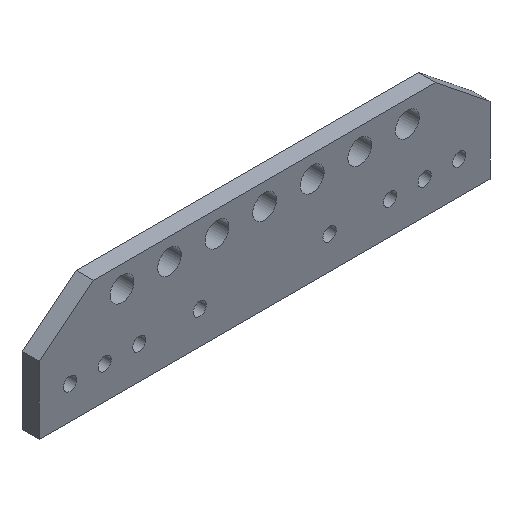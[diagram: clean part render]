
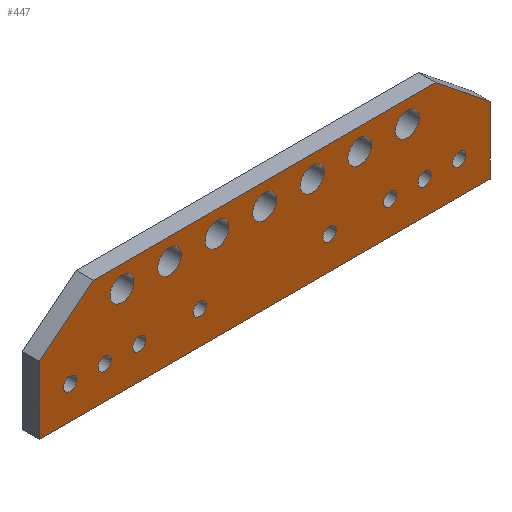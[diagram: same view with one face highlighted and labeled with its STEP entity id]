
A CAD part, isometric view. The second image highlights one B-rep face of the part: STEP entity #447.
In plain terms, the highlighted planar face has unit normal (0, -1, 0).
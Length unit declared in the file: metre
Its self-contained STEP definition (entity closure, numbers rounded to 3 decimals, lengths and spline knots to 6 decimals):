
#15=CIRCLE('',#478,0.00275);
#17=CIRCLE('',#481,0.00275);
#19=CIRCLE('',#484,0.00275);
#21=CIRCLE('',#487,0.00275);
#23=CIRCLE('',#490,0.00275);
#25=CIRCLE('',#493,0.001524);
#27=CIRCLE('',#496,0.001524);
#29=CIRCLE('',#499,0.001524);
#31=CIRCLE('',#502,0.001524);
#33=CIRCLE('',#505,0.001524);
#35=CIRCLE('',#508,0.001524);
#37=CIRCLE('',#511,0.001524);
#39=CIRCLE('',#514,0.001524);
#41=CIRCLE('',#518,0.00275);
#43=CIRCLE('',#521,0.00275);
#134=ORIENTED_EDGE('',*,*,#200,.F.);
#135=ORIENTED_EDGE('',*,*,#155,.T.);
#136=ORIENTED_EDGE('',*,*,#197,.F.);
#137=ORIENTED_EDGE('',*,*,#168,.F.);
#138=ORIENTED_EDGE('',*,*,#165,.F.);
#139=ORIENTED_EDGE('',*,*,#162,.T.);
#140=ORIENTED_EDGE('',*,*,#159,.T.);
#141=ORIENTED_EDGE('',*,*,#196,.T.);
#142=ORIENTED_EDGE('',*,*,#194,.T.);
#143=ORIENTED_EDGE('',*,*,#192,.T.);
#144=ORIENTED_EDGE('',*,*,#190,.T.);
#145=ORIENTED_EDGE('',*,*,#188,.T.);
#146=ORIENTED_EDGE('',*,*,#186,.T.);
#147=ORIENTED_EDGE('',*,*,#184,.T.);
#148=ORIENTED_EDGE('',*,*,#182,.T.);
#149=ORIENTED_EDGE('',*,*,#180,.T.);
#150=ORIENTED_EDGE('',*,*,#178,.T.);
#151=ORIENTED_EDGE('',*,*,#176,.T.);
#152=ORIENTED_EDGE('',*,*,#174,.T.);
#153=ORIENTED_EDGE('',*,*,#172,.F.);
#154=ORIENTED_EDGE('',*,*,#202,.F.);
#155=EDGE_CURVE('',#203,#204,#245,.T.);
#159=EDGE_CURVE('',#207,#203,#249,.T.);
#162=EDGE_CURVE('',#209,#207,#252,.T.);
#165=EDGE_CURVE('',#209,#211,#255,.T.);
#168=EDGE_CURVE('',#211,#213,#258,.T.);
#172=EDGE_CURVE('',#216,#216,#15,.F.);
#174=EDGE_CURVE('',#218,#218,#17,.T.);
#176=EDGE_CURVE('',#220,#220,#19,.T.);
#178=EDGE_CURVE('',#222,#222,#21,.T.);
#180=EDGE_CURVE('',#224,#224,#23,.T.);
#182=EDGE_CURVE('',#226,#226,#25,.T.);
#184=EDGE_CURVE('',#228,#228,#27,.T.);
#186=EDGE_CURVE('',#230,#230,#29,.T.);
#188=EDGE_CURVE('',#232,#232,#31,.T.);
#190=EDGE_CURVE('',#234,#234,#33,.T.);
#192=EDGE_CURVE('',#236,#236,#35,.T.);
#194=EDGE_CURVE('',#238,#238,#37,.T.);
#196=EDGE_CURVE('',#240,#240,#39,.T.);
#197=EDGE_CURVE('',#213,#204,#261,.T.);
#200=EDGE_CURVE('',#242,#242,#41,.F.);
#202=EDGE_CURVE('',#244,#244,#43,.F.);
#203=VERTEX_POINT('',#653);
#204=VERTEX_POINT('',#654);
#207=VERTEX_POINT('',#662);
#209=VERTEX_POINT('',#668);
#211=VERTEX_POINT('',#674);
#213=VERTEX_POINT('',#680);
#216=VERTEX_POINT('',#688);
#218=VERTEX_POINT('',#693);
#220=VERTEX_POINT('',#698);
#222=VERTEX_POINT('',#703);
#224=VERTEX_POINT('',#708);
#226=VERTEX_POINT('',#713);
#228=VERTEX_POINT('',#718);
#230=VERTEX_POINT('',#723);
#232=VERTEX_POINT('',#728);
#234=VERTEX_POINT('',#733);
#236=VERTEX_POINT('',#738);
#238=VERTEX_POINT('',#743);
#240=VERTEX_POINT('',#748);
#242=VERTEX_POINT('',#756);
#244=VERTEX_POINT('',#761);
#245=LINE('',#652,#263);
#249=LINE('',#661,#267);
#252=LINE('',#667,#270);
#255=LINE('',#673,#273);
#258=LINE('',#679,#276);
#261=LINE('',#750,#279);
#263=VECTOR('',#528,1.);
#267=VECTOR('',#534,1.);
#270=VECTOR('',#539,1.);
#273=VECTOR('',#544,1.);
#276=VECTOR('',#549,1.);
#279=VECTOR('',#632,1.);
#333=EDGE_LOOP('',(#134));
#334=EDGE_LOOP('',(#135,#136,#137,#138,#139,#140));
#335=EDGE_LOOP('',(#141));
#336=EDGE_LOOP('',(#142));
#337=EDGE_LOOP('',(#143));
#338=EDGE_LOOP('',(#144));
#339=EDGE_LOOP('',(#145));
#340=EDGE_LOOP('',(#146));
#341=EDGE_LOOP('',(#147));
#342=EDGE_LOOP('',(#148));
#343=EDGE_LOOP('',(#149));
#344=EDGE_LOOP('',(#150));
#345=EDGE_LOOP('',(#151));
#346=EDGE_LOOP('',(#152));
#347=EDGE_LOOP('',(#153));
#348=EDGE_LOOP('',(#154));
#401=FACE_BOUND('',#333,.T.);
#402=FACE_BOUND('',#334,.T.);
#403=FACE_BOUND('',#335,.T.);
#404=FACE_BOUND('',#336,.T.);
#405=FACE_BOUND('',#337,.T.);
#406=FACE_BOUND('',#338,.T.);
#407=FACE_BOUND('',#339,.T.);
#408=FACE_BOUND('',#340,.T.);
#409=FACE_BOUND('',#341,.T.);
#410=FACE_BOUND('',#342,.T.);
#411=FACE_BOUND('',#343,.T.);
#412=FACE_BOUND('',#344,.T.);
#413=FACE_BOUND('',#345,.T.);
#414=FACE_BOUND('',#346,.T.);
#415=FACE_BOUND('',#347,.T.);
#416=FACE_BOUND('',#348,.T.);
#424=PLANE('',#523);
#447=ADVANCED_FACE('',(#401,#402,#403,#404,#405,#406,#407,#408,#409,#410,
#411,#412,#413,#414,#415,#416),#424,.F.);
#478=AXIS2_PLACEMENT_3D('',#687,#556,#557);
#481=AXIS2_PLACEMENT_3D('',#692,#562,#563);
#484=AXIS2_PLACEMENT_3D('',#697,#568,#569);
#487=AXIS2_PLACEMENT_3D('',#702,#574,#575);
#490=AXIS2_PLACEMENT_3D('',#707,#580,#581);
#493=AXIS2_PLACEMENT_3D('',#712,#586,#587);
#496=AXIS2_PLACEMENT_3D('',#717,#592,#593);
#499=AXIS2_PLACEMENT_3D('',#722,#598,#599);
#502=AXIS2_PLACEMENT_3D('',#727,#604,#605);
#505=AXIS2_PLACEMENT_3D('',#732,#610,#611);
#508=AXIS2_PLACEMENT_3D('',#737,#616,#617);
#511=AXIS2_PLACEMENT_3D('',#742,#622,#623);
#514=AXIS2_PLACEMENT_3D('',#747,#628,#629);
#518=AXIS2_PLACEMENT_3D('',#755,#638,#639);
#521=AXIS2_PLACEMENT_3D('',#760,#644,#645);
#523=AXIS2_PLACEMENT_3D('',#763,#648,#649);
#528=DIRECTION('',(-0.781,0.,0.625));
#534=DIRECTION('',(0.,0.,1.));
#539=DIRECTION('',(1.,0.,0.));
#544=DIRECTION('',(0.,0.,1.));
#549=DIRECTION('',(0.781,0.,0.625));
#556=DIRECTION('',(0.,1.,0.));
#557=DIRECTION('',(0.,0.,1.));
#562=DIRECTION('',(0.,1.,0.));
#563=DIRECTION('',(0.,0.,1.));
#568=DIRECTION('',(0.,1.,0.));
#569=DIRECTION('',(0.,0.,1.));
#574=DIRECTION('',(0.,1.,0.));
#575=DIRECTION('',(0.,0.,1.));
#580=DIRECTION('',(0.,1.,0.));
#581=DIRECTION('',(0.,0.,1.));
#586=DIRECTION('',(0.,1.,0.));
#587=DIRECTION('',(0.,0.,1.));
#592=DIRECTION('',(0.,1.,0.));
#593=DIRECTION('',(0.,0.,1.));
#598=DIRECTION('',(0.,1.,0.));
#599=DIRECTION('',(0.,0.,1.));
#604=DIRECTION('',(0.,1.,0.));
#605=DIRECTION('',(0.,0.,1.));
#610=DIRECTION('',(0.,1.,0.));
#611=DIRECTION('',(0.,0.,1.));
#616=DIRECTION('',(0.,1.,0.));
#617=DIRECTION('',(0.,0.,1.));
#622=DIRECTION('',(0.,1.,0.));
#623=DIRECTION('',(0.,0.,1.));
#628=DIRECTION('',(0.,1.,0.));
#629=DIRECTION('',(0.,0.,1.));
#632=DIRECTION('',(1.,0.,0.));
#638=DIRECTION('',(0.,1.,0.));
#639=DIRECTION('',(0.,0.,1.));
#644=DIRECTION('',(0.,1.,0.));
#645=DIRECTION('',(0.,0.,1.));
#648=DIRECTION('',(0.,1.,0.));
#649=DIRECTION('',(0.,0.,1.));
#652=CARTESIAN_POINT('',(0.0473,0.,0.059085));
#653=CARTESIAN_POINT('',(0.084687,0.,0.029155));
#654=CARTESIAN_POINT('',(0.072196,0.,0.039155));
#661=CARTESIAN_POINT('',(0.084687,0.,0.));
#662=CARTESIAN_POINT('',(0.084687,0.,0.013534));
#667=CARTESIAN_POINT('',(0.,0.,0.013534));
#668=CARTESIAN_POINT('',(-0.019563,0.,0.013534));
#673=CARTESIAN_POINT('',(-0.019563,0.,0.));
#674=CARTESIAN_POINT('',(-0.019563,0.,0.029155));
#679=CARTESIAN_POINT('',(-0.021865,0.,0.027312));
#680=CARTESIAN_POINT('',(-0.007071,0.,0.039155));
#687=CARTESIAN_POINT('',(0.010562,0.,0.034155));
#688=CARTESIAN_POINT('',(0.010562,0.,0.036905));
#692=CARTESIAN_POINT('',(0.065562,0.,0.034155));
#693=CARTESIAN_POINT('',(0.065562,0.,0.036905));
#697=CARTESIAN_POINT('',(0.054562,0.,0.034155));
#698=CARTESIAN_POINT('',(0.054562,0.,0.036905));
#702=CARTESIAN_POINT('',(0.043562,0.,0.034155));
#703=CARTESIAN_POINT('',(0.043562,0.,0.036905));
#707=CARTESIAN_POINT('',(0.032562,0.,0.034155));
#708=CARTESIAN_POINT('',(0.032562,0.,0.036905));
#712=CARTESIAN_POINT('',(0.061579,0.,0.021155));
#713=CARTESIAN_POINT('',(0.061579,0.,0.022679));
#717=CARTESIAN_POINT('',(0.069579,0.,0.021155));
#718=CARTESIAN_POINT('',(0.069579,0.,0.022679));
#722=CARTESIAN_POINT('',(0.003549,0.,0.021155));
#723=CARTESIAN_POINT('',(0.003549,0.,0.022679));
#727=CARTESIAN_POINT('',(-0.004451,0.,0.021155));
#728=CARTESIAN_POINT('',(-0.004451,0.,0.022679));
#732=CARTESIAN_POINT('',(0.077579,0.,0.021155));
#733=CARTESIAN_POINT('',(0.077579,0.,0.022679));
#737=CARTESIAN_POINT('',(0.047569,0.,0.021155));
#738=CARTESIAN_POINT('',(0.047569,0.,0.022679));
#742=CARTESIAN_POINT('',(0.017559,0.,0.021155));
#743=CARTESIAN_POINT('',(0.017559,0.,0.022679));
#747=CARTESIAN_POINT('',(-0.012451,0.,0.021155));
#748=CARTESIAN_POINT('',(-0.012451,0.,0.022679));
#750=CARTESIAN_POINT('',(0.,0.,0.039155));
#755=CARTESIAN_POINT('',(-0.000438,0.,0.034155));
#756=CARTESIAN_POINT('',(-0.000438,0.,0.036905));
#760=CARTESIAN_POINT('',(0.021562,0.,0.034155));
#761=CARTESIAN_POINT('',(0.021562,0.,0.036905));
#763=CARTESIAN_POINT('',(0.,0.,0.));
